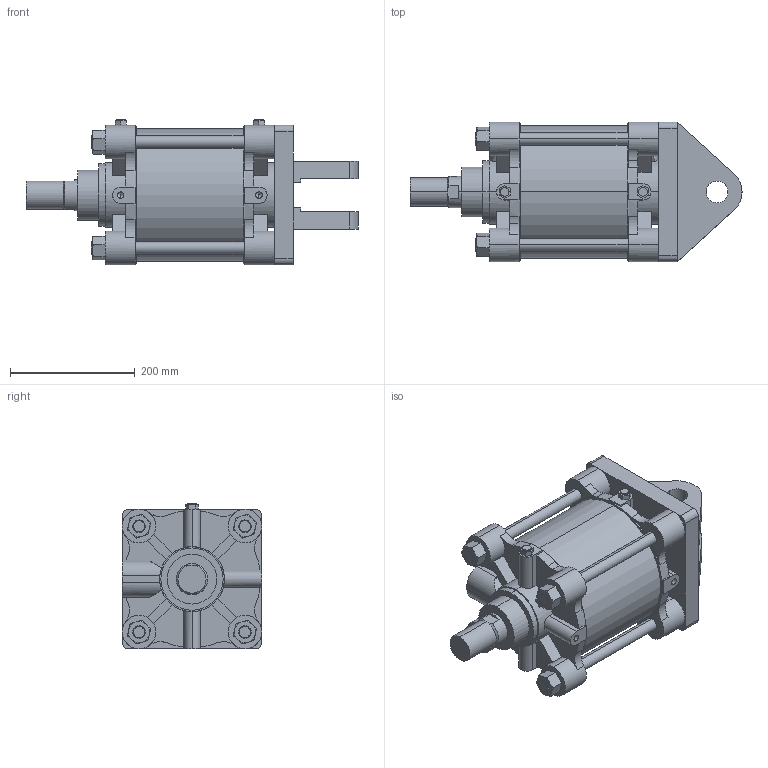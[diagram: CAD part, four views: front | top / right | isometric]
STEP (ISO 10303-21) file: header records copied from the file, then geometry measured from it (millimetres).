
FILE_DESCRIPTION (( 'STEP AP203' ), '1' );
FILE_NAME ('A##2-200#-100-W.STEP', '2016-03-31T07:01:55', ( '' ), ( '' ), 'SwSTEP 2.0', 'SolidWorks 2014', '' );
FILE_SCHEMA (( 'CONFIG_CONTROL_DESIGN' ));
Length unit declared in the file: millimetre
Products named in the file (7): A200-A; A200-W; A200-B; A##2-200#-100-W; A200-100
Assembly tree (12 placements, depth 2):
  A##2-200#-100-W
    A200-B
    A200-100
    A200-A
    (unnamed)  x4
    (unnamed)  x4
    A200-W
Bounding box: 533 x 224 x 234 mm (x, y, z)
Volume: 12070142.3 mm3; surface area: 854667.2 mm2
Topology: 12 solids, 14 shells, 363 faces, 932 edges, 598 vertices
Faces by surface type: plane 187, cylinder 136, torus 24, cone 16
Entity records: 10885 total; most frequent: CARTESIAN_POINT 2182, DIRECTION 1730, ORIENTED_EDGE 1588, EDGE_CURVE 794, AXIS2_PLACEMENT_3D 652, VERTEX_POINT 520, LINE 426, VECTOR 426
